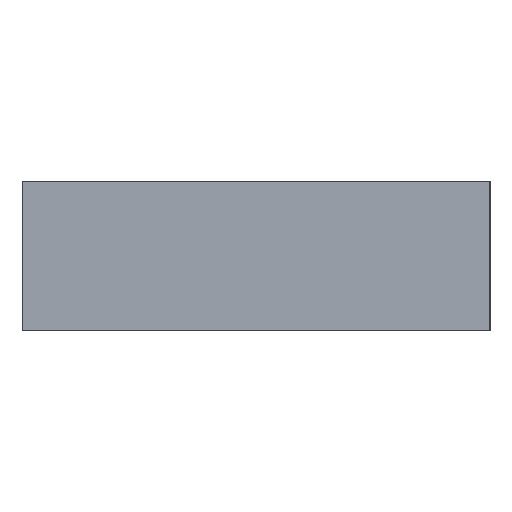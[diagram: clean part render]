
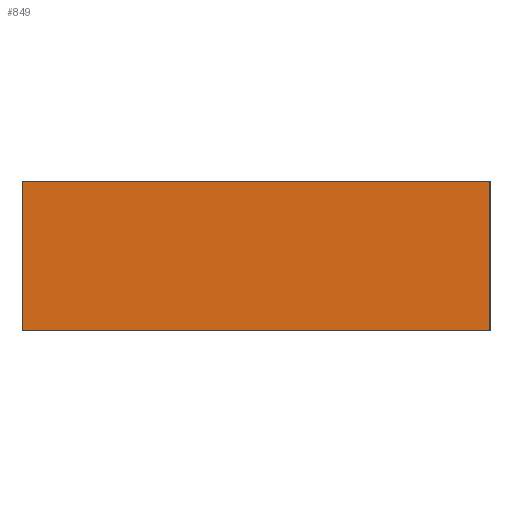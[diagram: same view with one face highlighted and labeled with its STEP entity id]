
A CAD part, left-side view. The second image highlights one B-rep face of the part: STEP entity #849.
In plain terms, the highlighted planar face has unit normal (-1, 0, 0).
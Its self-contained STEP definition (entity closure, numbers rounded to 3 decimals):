
#45 = EDGE_CURVE ( 'NONE', #1464, #1402, #315, .T. ) ;
#70 = DIRECTION ( 'NONE',  ( 0., 0., -1. ) ) ;
#180 = LINE ( 'NONE', #854, #664 ) ;
#315 = LINE ( 'NONE', #773, #537 ) ;
#368 = CARTESIAN_POINT ( 'NONE',  ( 161.736, 129.5, 8. ) ) ;
#374 = EDGE_CURVE ( 'NONE', #1402, #1369, #391, .T. ) ;
#379 = FACE_OUTER_BOUND ( 'NONE', #865, .T. ) ;
#391 = LINE ( 'NONE', #592, #981 ) ;
#437 = CARTESIAN_POINT ( 'NONE',  ( 161.736, 104.5, 8. ) ) ;
#475 = EDGE_CURVE ( 'NONE', #1469, #1369, #180, .T. ) ;
#500 = DIRECTION ( 'NONE',  ( 0., -1., 0. ) ) ;
#537 = VECTOR ( 'NONE', #1301, 1000. ) ;
#580 = ORIENTED_EDGE ( 'NONE', *, *, #475, .F. ) ;
#592 = CARTESIAN_POINT ( 'NONE',  ( 161.736, 129.5, 0. ) ) ;
#652 = PLANE ( 'NONE',  #1218 ) ;
#664 = VECTOR ( 'NONE', #70, 1000. ) ;
#769 = CARTESIAN_POINT ( 'NONE',  ( 161.736, 104.5, 0. ) ) ;
#773 = CARTESIAN_POINT ( 'NONE',  ( 161.736, 129.5, 8. ) ) ;
#849 = ADVANCED_FACE ( 'NONE', ( #379 ), #652, .F. ) ;
#854 = CARTESIAN_POINT ( 'NONE',  ( 161.736, 104.5, 8. ) ) ;
#856 = ORIENTED_EDGE ( 'NONE', *, *, #45, .T. ) ;
#865 = EDGE_LOOP ( 'NONE', ( #1596, #580, #876, #856 ) ) ;
#876 = ORIENTED_EDGE ( 'NONE', *, *, #1137, .F. ) ;
#939 = DIRECTION ( 'NONE',  ( 1., 0., 0. ) ) ;
#960 = CARTESIAN_POINT ( 'NONE',  ( 161.736, 129.5, 8. ) ) ;
#981 = VECTOR ( 'NONE', #1242, 1000. ) ;
#1075 = CARTESIAN_POINT ( 'NONE',  ( 161.736, 129.5, 8. ) ) ;
#1083 = DIRECTION ( 'NONE',  ( 0., 0., -1. ) ) ;
#1137 = EDGE_CURVE ( 'NONE', #1464, #1469, #1370, .T. ) ;
#1218 = AXIS2_PLACEMENT_3D ( 'NONE', #1075, #939, #1083 ) ;
#1242 = DIRECTION ( 'NONE',  ( 0., -1., 0. ) ) ;
#1246 = VECTOR ( 'NONE', #500, 1000. ) ;
#1301 = DIRECTION ( 'NONE',  ( 0., 0., -1. ) ) ;
#1327 = CARTESIAN_POINT ( 'NONE',  ( 161.736, 129.5, 0. ) ) ;
#1369 = VERTEX_POINT ( 'NONE', #769 ) ;
#1370 = LINE ( 'NONE', #368, #1246 ) ;
#1402 = VERTEX_POINT ( 'NONE', #1327 ) ;
#1464 = VERTEX_POINT ( 'NONE', #960 ) ;
#1469 = VERTEX_POINT ( 'NONE', #437 ) ;
#1596 = ORIENTED_EDGE ( 'NONE', *, *, #374, .T. ) ;
